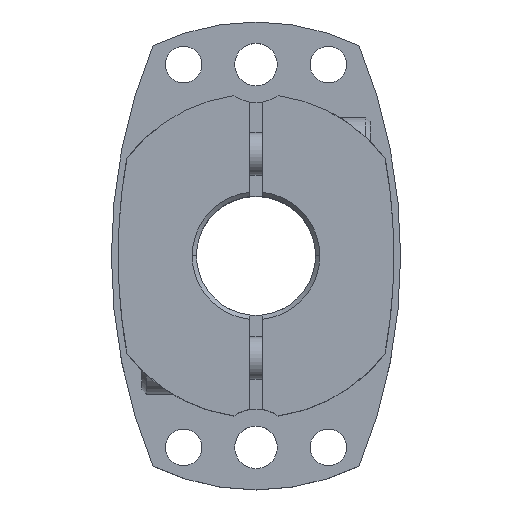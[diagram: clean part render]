
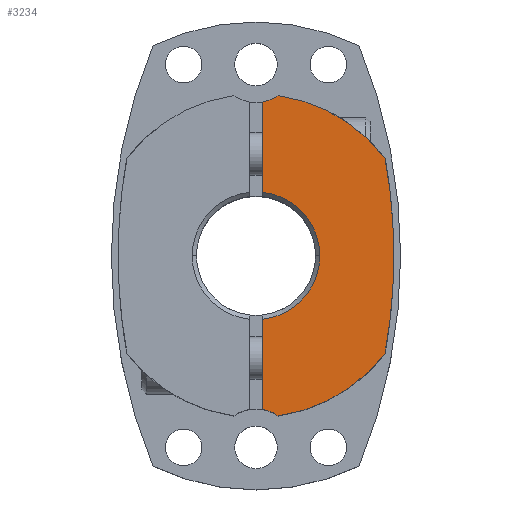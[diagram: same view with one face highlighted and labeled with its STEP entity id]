
A CAD part, top view. The second image highlights one B-rep face of the part: STEP entity #3234.
In plain terms, the highlighted planar face has unit normal (0, 0, 1).
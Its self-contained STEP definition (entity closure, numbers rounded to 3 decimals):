
#225=CARTESIAN_POINT('',(7.5,0.,17.0));
#226=VERTEX_POINT('',#225);
#235=CARTESIAN_POINT('',(0.75,7.462,17.0));
#236=VERTEX_POINT('',#235);
#237=CARTESIAN_POINT('',(0.0,0.,17.0));
#238=DIRECTION('',(0.0,0.0,1.0));
#239=DIRECTION('',(-1.0,0.0,0.0));
#240=AXIS2_PLACEMENT_3D('',#237,#238,#239);
#241=CIRCLE('',#240,7.5);
#242=EDGE_CURVE('',#226,#236,#241,.T.);
#537=CARTESIAN_POINT('',(16.2,0.,17.0));
#538=VERTEX_POINT('',#537);
#646=CARTESIAN_POINT('',(15.173,11.435,17.0));
#647=VERTEX_POINT('',#646);
#654=CARTESIAN_POINT('',(-48.,0.,17.0));
#655=DIRECTION('',(0.0,0.0,-1.0));
#656=DIRECTION('',(1.0,0.0,0.0));
#657=AXIS2_PLACEMENT_3D('',#654,#655,#656);
#658=CIRCLE('',#657,64.2);
#659=EDGE_CURVE('',#647,#538,#658,.T.);
#2305=CARTESIAN_POINT('',(2.593,18.822,17.0));
#2306=VERTEX_POINT('',#2305);
#2313=CARTESIAN_POINT('',(0.,0.,17.0));
#2314=DIRECTION('',(0.0,0.0,-1.0));
#2315=DIRECTION('',(1.0,0.0,0.0));
#2316=AXIS2_PLACEMENT_3D('',#2313,#2314,#2315);
#2317=CIRCLE('',#2316,19.);
#2318=EDGE_CURVE('',#2306,#647,#2317,.T.);
#2531=CARTESIAN_POINT('',(15.173,-11.435,17.0));
#2532=VERTEX_POINT('',#2531);
#2533=CARTESIAN_POINT('',(-48.,0.,17.0));
#2534=DIRECTION('',(0.0,0.0,-1.0));
#2535=DIRECTION('',(1.0,0.0,0.0));
#2536=AXIS2_PLACEMENT_3D('',#2533,#2534,#2535);
#2537=CIRCLE('',#2536,64.2);
#2538=EDGE_CURVE('',#538,#2532,#2537,.T.);
#2747=CARTESIAN_POINT('',(0.75,18.063,17.0));
#2748=VERTEX_POINT('',#2747);
#2755=CARTESIAN_POINT('',(0.,22.5,17.0));
#2756=DIRECTION('',(0.0,0.0,-1.0));
#2757=DIRECTION('',(1.0,0.0,0.0));
#2758=AXIS2_PLACEMENT_3D('',#2755,#2756,#2757);
#2759=CIRCLE('',#2758,4.5);
#2760=EDGE_CURVE('',#2306,#2748,#2759,.T.);
#2772=CARTESIAN_POINT('',(0.75,-18.063,17.0));
#2773=VERTEX_POINT('',#2772);
#2789=CARTESIAN_POINT('',(2.593,-18.822,17.0));
#2790=VERTEX_POINT('',#2789);
#2797=CARTESIAN_POINT('',(0.,-22.5,17.0));
#2798=DIRECTION('',(0.0,0.0,-1.0));
#2799=DIRECTION('',(1.0,0.0,0.0));
#2800=AXIS2_PLACEMENT_3D('',#2797,#2798,#2799);
#2801=CIRCLE('',#2800,4.5);
#2802=EDGE_CURVE('',#2773,#2790,#2801,.T.);
#3156=CARTESIAN_POINT('',(0.75,-7.462,17.0));
#3157=VERTEX_POINT('',#3156);
#3158=CARTESIAN_POINT('',(0.75,-7.462,17.0));
#3159=DIRECTION('',(0.0,-1.0,0.0));
#3160=VECTOR('',#3159,10.601);
#3161=LINE('',#3158,#3160);
#3162=EDGE_CURVE('',#3157,#2773,#3161,.T.);
#3200=CARTESIAN_POINT('',(0.,0.,17.0));
#3201=DIRECTION('',(0.0,0.0,1.0));
#3202=DIRECTION('',(1.0,0.0,0.0));
#3203=AXIS2_PLACEMENT_3D('',#3200,#3201,#3202);
#3204=PLANE('',#3203);
#3205=ORIENTED_EDGE('',*,*,#2760,.T.);
#3206=CARTESIAN_POINT('',(0.75,18.063,17.0));
#3207=DIRECTION('',(0.0,-1.0,0.0));
#3208=VECTOR('',#3207,10.601);
#3209=LINE('',#3206,#3208);
#3210=EDGE_CURVE('',#2748,#236,#3209,.T.);
#3211=ORIENTED_EDGE('',*,*,#3210,.T.);
#3212=ORIENTED_EDGE('',*,*,#242,.F.);
#3213=CARTESIAN_POINT('',(0.0,0.,17.0));
#3214=DIRECTION('',(0.0,0.0,1.0));
#3215=DIRECTION('',(-1.0,0.0,0.0));
#3216=AXIS2_PLACEMENT_3D('',#3213,#3214,#3215);
#3217=CIRCLE('',#3216,7.5);
#3218=EDGE_CURVE('',#3157,#226,#3217,.T.);
#3219=ORIENTED_EDGE('',*,*,#3218,.F.);
#3220=ORIENTED_EDGE('',*,*,#3162,.T.);
#3221=ORIENTED_EDGE('',*,*,#2802,.T.);
#3222=CARTESIAN_POINT('',(0.,0.0,17.0));
#3223=DIRECTION('',(0.0,0.0,-1.0));
#3224=DIRECTION('',(1.0,0.0,0.0));
#3225=AXIS2_PLACEMENT_3D('',#3222,#3223,#3224);
#3226=CIRCLE('',#3225,19.);
#3227=EDGE_CURVE('',#2532,#2790,#3226,.T.);
#3228=ORIENTED_EDGE('',*,*,#3227,.F.);
#3229=ORIENTED_EDGE('',*,*,#2538,.F.);
#3230=ORIENTED_EDGE('',*,*,#659,.F.);
#3231=ORIENTED_EDGE('',*,*,#2318,.F.);
#3232=EDGE_LOOP('',(#3205,#3211,#3212,#3219,#3220,#3221,#3228,#3229,#3230,#3231));
#3233=FACE_OUTER_BOUND('',#3232,.T.);
#3234=ADVANCED_FACE('',(#3233),#3204,.T.);
